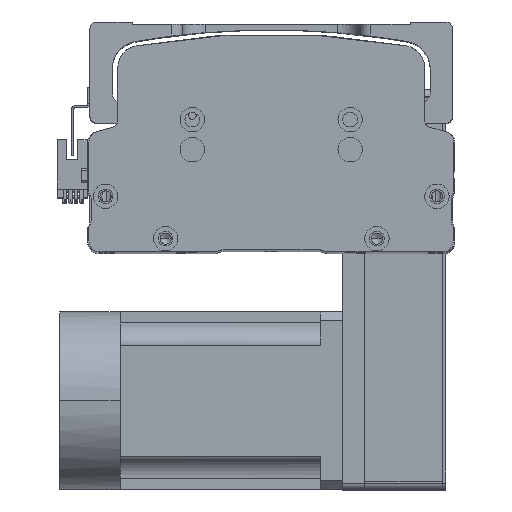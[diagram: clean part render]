
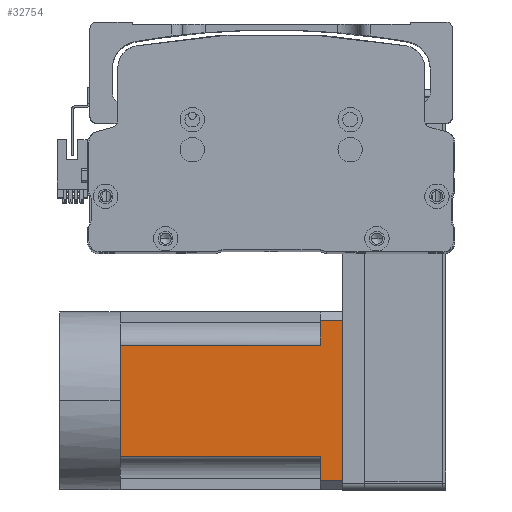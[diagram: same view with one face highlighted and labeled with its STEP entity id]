
A CAD part, top view. The second image highlights one B-rep face of the part: STEP entity #32754.
In plain terms, the highlighted planar face has unit normal (0, 0, 1) as drawn and (0, 0, -1) by its records, which use the part's own axes.
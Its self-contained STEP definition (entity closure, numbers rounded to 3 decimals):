
#1260 = CARTESIAN_POINT ( 'NONE',  ( 36., 100., -40. ) ) ;
#2003 = AXIS2_PLACEMENT_3D ( 'NONE', #19282, #52116, #24180 ) ;
#2137 = ORIENTED_EDGE ( 'NONE', *, *, #8478, .T. ) ;
#2728 = EDGE_CURVE ( 'NONE', #32310, #34344, #57080, .T. ) ;
#2994 = CARTESIAN_POINT ( 'NONE',  ( 25., 0., -40. ) ) ;
#3657 = CARTESIAN_POINT ( 'NONE',  ( -40., 90., -40. ) ) ;
#4207 = EDGE_CURVE ( 'NONE', #34184, #39657, #10904, .T. ) ;
#6044 = DIRECTION ( 'NONE',  ( 0., 1., 0. ) ) ;
#6584 = LINE ( 'NONE', #3657, #15995 ) ;
#7042 = EDGE_CURVE ( 'NONE', #22061, #51163, #6584, .T. ) ;
#8478 = EDGE_CURVE ( 'NONE', #34344, #22061, #24565, .T. ) ;
#8665 = ORIENTED_EDGE ( 'NONE', *, *, #7042, .T. ) ;
#8721 = EDGE_CURVE ( 'NONE', #51163, #36252, #35470, .T. ) ;
#8910 = VECTOR ( 'NONE', #45384, 1000. ) ;
#9961 = CARTESIAN_POINT ( 'NONE',  ( -25., 0., -40. ) ) ;
#10904 = LINE ( 'NONE', #55493, #46632 ) ;
#11200 = CARTESIAN_POINT ( 'NONE',  ( 36., -27., -40. ) ) ;
#11649 = ORIENTED_EDGE ( 'NONE', *, *, #56109, .F. ) ;
#12013 = CARTESIAN_POINT ( 'NONE',  ( 25., -27., -40. ) ) ;
#13488 = CARTESIAN_POINT ( 'NONE',  ( -36., -27., -40. ) ) ;
#14378 = PLANE ( 'NONE',  #2003 ) ;
#14771 = FACE_OUTER_BOUND ( 'NONE', #42936, .T. ) ;
#15995 = VECTOR ( 'NONE', #16772, 1000. ) ;
#16772 = DIRECTION ( 'NONE',  ( -1., 0., 0. ) ) ;
#16889 = DIRECTION ( 'NONE',  ( 0., -1., 0. ) ) ;
#17396 = CARTESIAN_POINT ( 'NONE',  ( -40., 0., -40. ) ) ;
#17913 = LINE ( 'NONE', #54363, #41281 ) ;
#17954 = VERTEX_POINT ( 'NONE', #2994 ) ;
#18135 = DIRECTION ( 'NONE',  ( -1., 0., 0. ) ) ;
#19282 = CARTESIAN_POINT ( 'NONE',  ( -40., -27., -40. ) ) ;
#20255 = ORIENTED_EDGE ( 'NONE', *, *, #28496, .T. ) ;
#21708 = DIRECTION ( 'NONE',  ( -1., 0., 0. ) ) ;
#22061 = VERTEX_POINT ( 'NONE', #59592 ) ;
#22348 = EDGE_CURVE ( 'NONE', #39657, #17954, #56900, .T. ) ;
#23036 = VECTOR ( 'NONE', #41439, 1000. ) ;
#23094 = VECTOR ( 'NONE', #6044, 1000. ) ;
#23971 = ORIENTED_EDGE ( 'NONE', *, *, #58476, .T. ) ;
#24180 = DIRECTION ( 'NONE',  ( -1., 0., 0. ) ) ;
#24565 = LINE ( 'NONE', #33973, #23094 ) ;
#28496 = EDGE_CURVE ( 'NONE', #41591, #34184, #30211, .T. ) ;
#28761 = VECTOR ( 'NONE', #53177, 1000. ) ;
#30211 = LINE ( 'NONE', #11200, #28761 ) ;
#32310 = VERTEX_POINT ( 'NONE', #48683 ) ;
#32754 = ADVANCED_FACE ( 'NONE', ( #14771 ), #14378, .T. ) ;
#32880 = LINE ( 'NONE', #50049, #40865 ) ;
#33973 = CARTESIAN_POINT ( 'NONE',  ( -25., -27., -40. ) ) ;
#34184 = VERTEX_POINT ( 'NONE', #45641 ) ;
#34344 = VERTEX_POINT ( 'NONE', #9961 ) ;
#35470 = LINE ( 'NONE', #13488, #23036 ) ;
#36252 = VERTEX_POINT ( 'NONE', #49083 ) ;
#37546 = ORIENTED_EDGE ( 'NONE', *, *, #4207, .T. ) ;
#38873 = ORIENTED_EDGE ( 'NONE', *, *, #2728, .T. ) ;
#39657 = VERTEX_POINT ( 'NONE', #59618 ) ;
#40865 = VECTOR ( 'NONE', #54775, 1000. ) ;
#41281 = VECTOR ( 'NONE', #21708, 1000. ) ;
#41439 = DIRECTION ( 'NONE',  ( 0., 1., 0. ) ) ;
#41591 = VERTEX_POINT ( 'NONE', #1260 ) ;
#42298 = ORIENTED_EDGE ( 'NONE', *, *, #22348, .T. ) ;
#42936 = EDGE_LOOP ( 'NONE', ( #11649, #20255, #37546, #42298, #23971, #38873, #2137, #8665, #52144 ) ) ;
#44488 = VECTOR ( 'NONE', #16889, 1000. ) ;
#45384 = DIRECTION ( 'NONE',  ( -1., 0., 0. ) ) ;
#45641 = CARTESIAN_POINT ( 'NONE',  ( 36., 90., -40. ) ) ;
#46632 = VECTOR ( 'NONE', #18135, 1000. ) ;
#48683 = CARTESIAN_POINT ( 'NONE',  ( 0., 0., -40. ) ) ;
#49083 = CARTESIAN_POINT ( 'NONE',  ( -36., 100., -40. ) ) ;
#50049 = CARTESIAN_POINT ( 'NONE',  ( -40., 100., -40. ) ) ;
#51163 = VERTEX_POINT ( 'NONE', #52264 ) ;
#52116 = DIRECTION ( 'NONE',  ( 0., 0., -1. ) ) ;
#52144 = ORIENTED_EDGE ( 'NONE', *, *, #8721, .T. ) ;
#52264 = CARTESIAN_POINT ( 'NONE',  ( -36., 90., -40. ) ) ;
#53177 = DIRECTION ( 'NONE',  ( 0., -1., 0. ) ) ;
#54363 = CARTESIAN_POINT ( 'NONE',  ( -40., 0., -40. ) ) ;
#54775 = DIRECTION ( 'NONE',  ( -1., 0., 0. ) ) ;
#55493 = CARTESIAN_POINT ( 'NONE',  ( -40., 90., -40. ) ) ;
#56109 = EDGE_CURVE ( 'NONE', #41591, #36252, #32880, .T. ) ;
#56900 = LINE ( 'NONE', #12013, #44488 ) ;
#57080 = LINE ( 'NONE', #17396, #8910 ) ;
#58476 = EDGE_CURVE ( 'NONE', #17954, #32310, #17913, .T. ) ;
#59592 = CARTESIAN_POINT ( 'NONE',  ( -25., 90., -40. ) ) ;
#59618 = CARTESIAN_POINT ( 'NONE',  ( 25., 90., -40. ) ) ;
